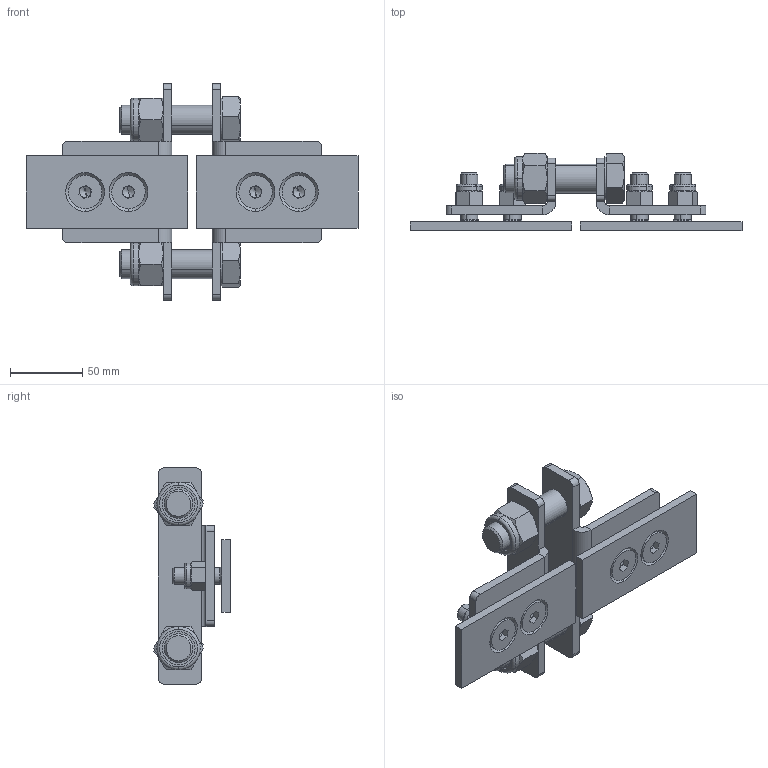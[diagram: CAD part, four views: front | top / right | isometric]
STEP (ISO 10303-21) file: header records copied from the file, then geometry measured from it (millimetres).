
FILE_DESCRIPTION (( 'STEP AP214' ), '1' );
FILE_NAME ('900.100.116.STEP', '2015-02-23T15:39:25', ( '' ), ( '' ), 'SwSTEP 2.0', 'SolidWorks 2012', '' );
FILE_SCHEMA (( 'AUTOMOTIVE_DESIGN' ));
Length unit declared in the file: millimetre
Products named in the file (8): torque nut 01_iso_ISO 7040-M20-N; hex screw gradec_din_ISO 4018 - M20 x 70-WN; 900.100.026; torque nut 01_iso_ISO 7040-M12-N; 900.100.023; socket countersunk head screw_iso_ISO 10642 - M12 x 40 --- 40N; 900.100.116
Assembly tree (15 placements, depth 3):
  900.100.116
    900.100.023  x2
      900.100.023
      socket countersunk head screw_iso_ISO 10642 - M12 x 40 --- 40N
    900.100.026  x2
    torque nut 01_iso_ISO 7040-M12-N  x4
    hex screw gradec_din_ISO 4018 - M20 x 70-WN  x2
    torque nut 01_iso_ISO 7040-M20-N  x2
Bounding box: 230 x 53.32 x 150 mm (x, y, z)
Volume: 285565.6 mm3; surface area: 109720.2 mm2
Topology: 16 solids, 16 shells, 436 faces, 956 edges, 556 vertices
Faces by surface type: plane 180, cone 132, cylinder 104, torus 20
Entity records: 4982 total; most frequent: CARTESIAN_POINT 1095, DIRECTION 786, ORIENTED_EDGE 700, EDGE_CURVE 350, AXIS2_PLACEMENT_3D 318, VERTEX_POINT 207, EDGE_LOOP 179, ADVANCED_FACE 159
